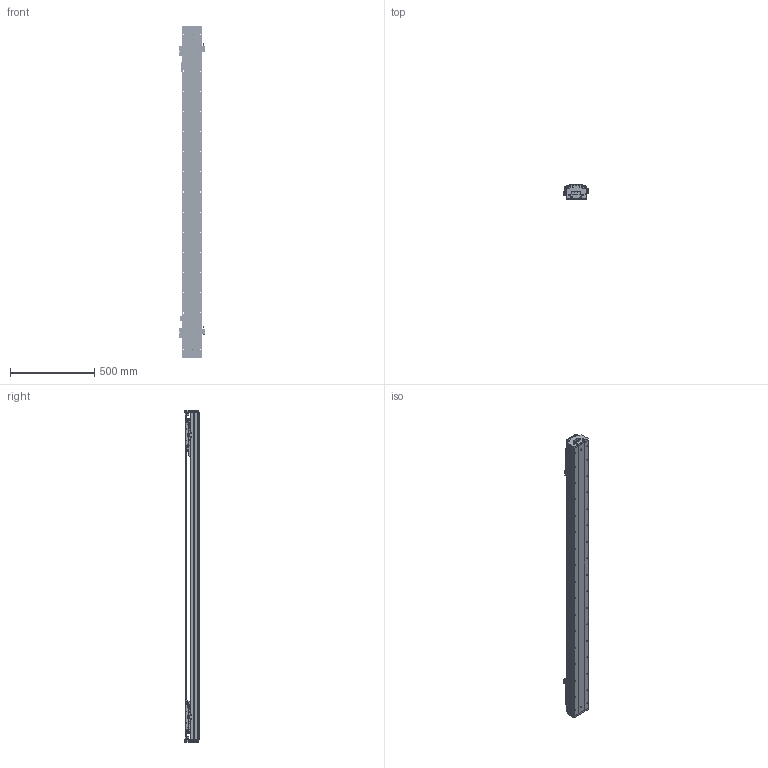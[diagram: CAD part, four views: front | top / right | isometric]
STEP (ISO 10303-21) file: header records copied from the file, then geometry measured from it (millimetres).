
FILE_DESCRIPTION (( 'STEP AP203' ), '1' );
FILE_NAME ('DKW120-2×B2-W060（T1460-L005-0.2）.STEP', '2021-09-24T01:52:16', ( '微软用户' ), ( '微软中国' ), 'SwSTEP 2.0', 'SolidWorks 2018', '' );
FILE_SCHEMA (( 'CONFIG_CONTROL_DESIGN' ));
Length unit declared in the file: millimetre
Products named in the file (24): EE_SX674A; RUS嫖掑喜; 06652-0001-004-00 DKW120嶺輸菜輸; DKW-DG-XJ-Z-00 笢潔滅袉砎蝶; Ru2; DKW-HXJ-JY-00 遣喳砎蝶; DKW-GYP-ZJ-00 笢潔嫖萇覜茼え; RUS嫖掑郪璃; 10940-0001-004-00 120詩湍裔啣; DKW-KGZ-ZJ-00 中间光电开关支架; 10980-0001-003-00 嫖萇羲壽嘐隅釱; 砎蝶猾沭; DKW120-2×B2-W060（T1460-L005-0.2）; DKW-SG-GYP-H-00 嫖萇覜茼え; 12160-0000-003-00 DKW120詩湍嶺輸; B2-W060_00; 12160-0000-004-00  DKW120詩湍揤輸; DKW120-B15-T300-DZ-00 菁釱; DKW119-RU-DTJ-00 RU2黍杅芛盓殤; DKW120 单轴模组-拉钢带组件; MSB15-DG-U; B2-W060; BKMA01-W060-TRL280; 06652-0001-001-00 DKW120傷啣
Assembly tree (41 placements, depth 3):
  DKW120-2×B2-W060（T1460-L005-0.2）
    DKW120-B15-T300-DZ-00 菁釱
    MSB15-DG-U  x2
    DKW120 单轴模组-拉钢带组件
      06652-0001-001-00 DKW120傷啣  x2
      06652-0001-004-00 DKW120嶺輸菜輸  x4
      DKW-HXJ-JY-00 遣喳砎蝶  x4
      10940-0001-004-00 120詩湍裔啣
      砎蝶猾沭  x2
      12160-0000-003-00 DKW120詩湍嶺輸  x2
      12160-0000-004-00  DKW120詩湍揤輸  x2
    BKMA01-W060-TRL280
    RUS嫖掑郪璃
      RUS嫖掑喜
      Ru2
    10980-0001-003-00 嫖萇羲壽嘐隅釱  x2
    B2-W060  x2
      DKW-SG-GYP-H-00 嫖萇覜茼え
      B2-W060_00
      DKW119-RU-DTJ-00 RU2黍杅芛盓殤
    EE_SX674A  x5
    Ru2
    DKW-DG-XJ-Z-00 笢潔滅袉砎蝶
    DKW-GYP-ZJ-00 笢潔嫖萇覜茼え
    DKW-KGZ-ZJ-00 中间光电开关支架
Bounding box: 154.1 x 84 x 1976 mm (x, y, z)
Volume: 7488127.1 mm3; surface area: 2885396.9 mm2
Topology: 60 solids, 158 shells, 6444 faces, 17458 edges, 11243 vertices
Faces by surface type: plane 3562, cylinder 1900, bspline 494, cone 488
Entity records: 140160 total; most frequent: CARTESIAN_POINT 48236, ORIENTED_EDGE 18969, DIRECTION 17660, EDGE_CURVE 9525, VERTEX_POINT 6249, AXIS2_PLACEMENT_3D 5904, VECTOR 5852, LINE 5852
